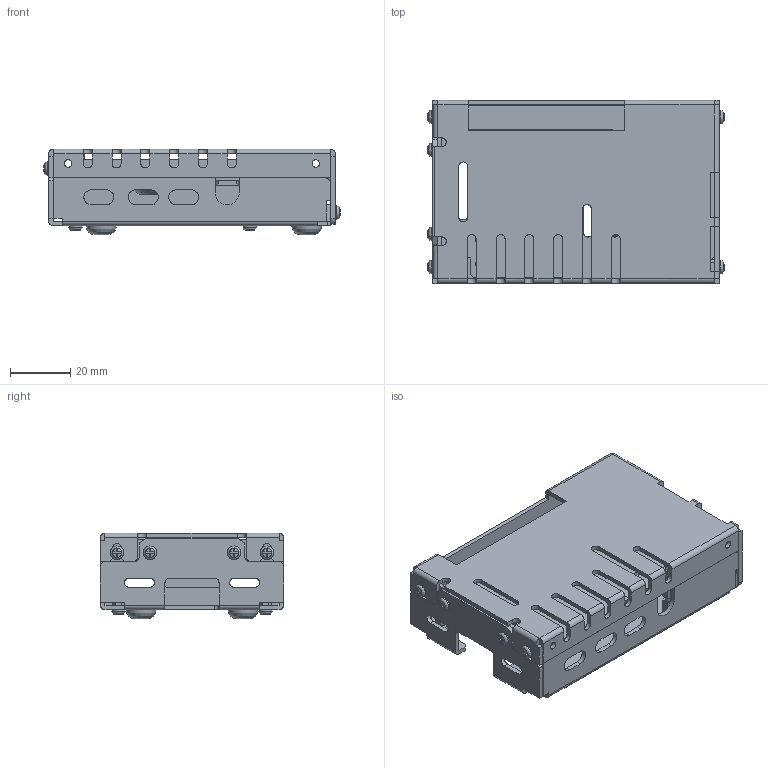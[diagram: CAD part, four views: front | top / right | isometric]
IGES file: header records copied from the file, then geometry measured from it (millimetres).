
Global section: file name: Open_Aluminium_Case for Rpi4; native system: unknown; preprocessor: unknown; author: unknown; organization: unknown; date: 20201019.091955; units: millimetre
Bounding box: 98.87 x 61 x 28.5 mm (x, y, z)
Volume: 29145.5 mm3; surface area: 44478.5 mm2
Topology: 25 solids, 25 shells, 720 faces, 1990 edges, 1290 vertices
Faces by surface type: bspline 720
